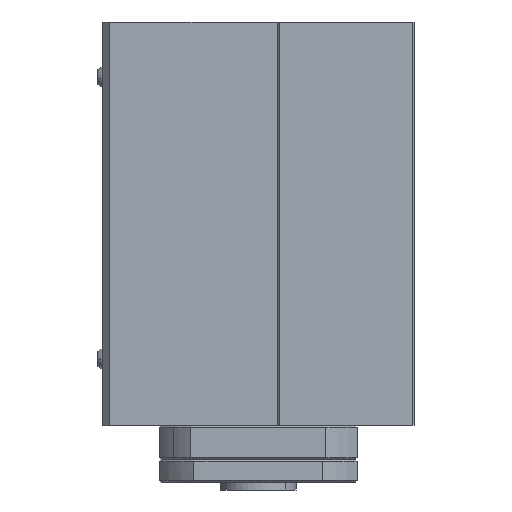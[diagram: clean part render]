
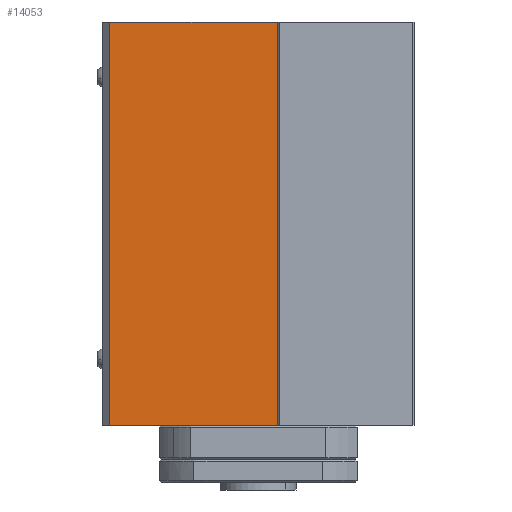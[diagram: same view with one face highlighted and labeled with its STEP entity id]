
A CAD part, left-side view. The second image highlights one B-rep face of the part: STEP entity #14053.
In plain terms, the highlighted planar face has unit normal (-1, 0, 0).
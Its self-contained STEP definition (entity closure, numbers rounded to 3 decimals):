
#196 = DIRECTION ( 'NONE',  ( 0., -1., 0. ) ) ;
#2582 = CARTESIAN_POINT ( 'NONE',  ( -41., -5., -106. ) ) ;
#2975 = VECTOR ( 'NONE', #15319, 1000. ) ;
#3055 = VECTOR ( 'NONE', #196, 1000. ) ;
#3062 = ORIENTED_EDGE ( 'NONE', *, *, #8899, .F. ) ;
#3744 = CARTESIAN_POINT ( 'NONE',  ( -41., 39., -106. ) ) ;
#4962 = FACE_OUTER_BOUND ( 'NONE', #15239, .T. ) ;
#5196 = LINE ( 'NONE', #3744, #2975 ) ;
#5351 = AXIS2_PLACEMENT_3D ( 'NONE', #17221, #15923, #6851 ) ;
#5458 = EDGE_CURVE ( 'NONE', #6525, #8685, #5196, .T. ) ;
#6525 = VERTEX_POINT ( 'NONE', #18225 ) ;
#6669 = ORIENTED_EDGE ( 'NONE', *, *, #12996, .T. ) ;
#6851 = DIRECTION ( 'NONE',  ( 0., 0., 1. ) ) ;
#7554 = DIRECTION ( 'NONE',  ( 0., 0., 1. ) ) ;
#8685 = VERTEX_POINT ( 'NONE', #11041 ) ;
#8899 = EDGE_CURVE ( 'NONE', #8685, #13485, #17681, .T. ) ;
#9067 = ORIENTED_EDGE ( 'NONE', *, *, #5458, .F. ) ;
#10243 = LINE ( 'NONE', #13262, #3055 ) ;
#10422 = EDGE_CURVE ( 'NONE', #6525, #10746, #10243, .T. ) ;
#10746 = VERTEX_POINT ( 'NONE', #2582 ) ;
#11041 = CARTESIAN_POINT ( 'NONE',  ( -41., 39., 0. ) ) ;
#12686 = VECTOR ( 'NONE', #13461, 1000. ) ;
#12996 = EDGE_CURVE ( 'NONE', #10746, #13485, #14654, .T. ) ;
#13222 = CARTESIAN_POINT ( 'NONE',  ( -41., -5., -106. ) ) ;
#13262 = CARTESIAN_POINT ( 'NONE',  ( -41., 39., -106. ) ) ;
#13461 = DIRECTION ( 'NONE',  ( 0., -1., 0. ) ) ;
#13485 = VERTEX_POINT ( 'NONE', #13680 ) ;
#13680 = CARTESIAN_POINT ( 'NONE',  ( -41., -5., 0. ) ) ;
#14053 = ADVANCED_FACE ( 'NONE', ( #4962 ), #16497, .T. ) ;
#14083 = VECTOR ( 'NONE', #7554, 1000. ) ;
#14654 = LINE ( 'NONE', #13222, #14083 ) ;
#14903 = ORIENTED_EDGE ( 'NONE', *, *, #10422, .T. ) ;
#15239 = EDGE_LOOP ( 'NONE', ( #3062, #9067, #14903, #6669 ) ) ;
#15319 = DIRECTION ( 'NONE',  ( 0., 0., 1. ) ) ;
#15923 = DIRECTION ( 'NONE',  ( -1., 0., 0. ) ) ;
#16028 = CARTESIAN_POINT ( 'NONE',  ( -41., 39., 0. ) ) ;
#16497 = PLANE ( 'NONE',  #5351 ) ;
#17221 = CARTESIAN_POINT ( 'NONE',  ( -41., 39., -106. ) ) ;
#17681 = LINE ( 'NONE', #16028, #12686 ) ;
#18225 = CARTESIAN_POINT ( 'NONE',  ( -41., 39., -106. ) ) ;
